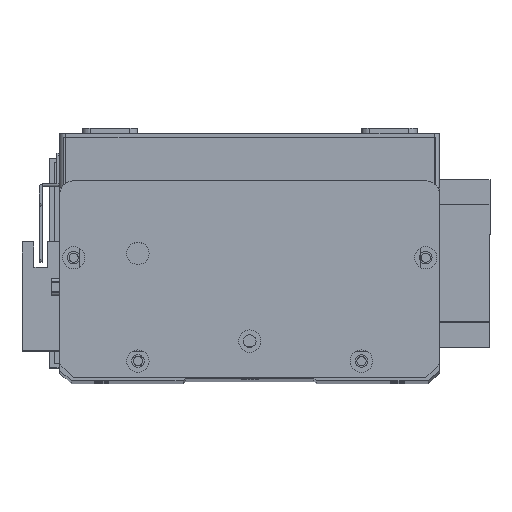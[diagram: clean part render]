
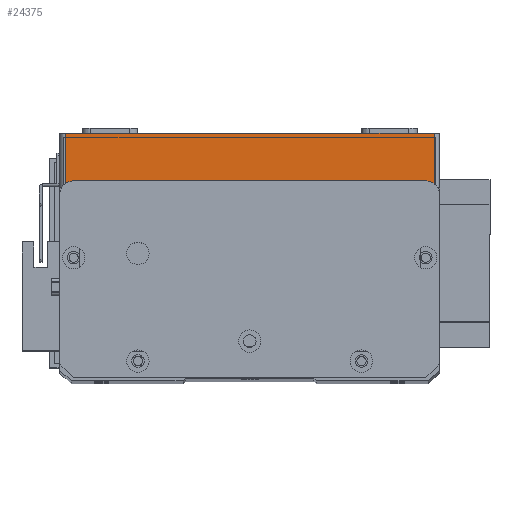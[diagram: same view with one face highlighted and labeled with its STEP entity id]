
A CAD part, top view. The second image highlights one B-rep face of the part: STEP entity #24375.
In plain terms, the highlighted planar face has unit normal (0, 0, 1) as drawn and (0, -1, 0) by its records, which use the part's own axes.
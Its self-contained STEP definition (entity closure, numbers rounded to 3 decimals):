
#221 = VERTEX_POINT ( 'NONE', #25934 ) ;
#480 = ORIENTED_EDGE ( 'NONE', *, *, #7185, .F. ) ;
#681 = DIRECTION ( 'NONE',  ( 0., 0., 1. ) ) ;
#1972 = AXIS2_PLACEMENT_3D ( 'NONE', #7260, #13977, #681 ) ;
#2326 = VECTOR ( 'NONE', #11329, 1000. ) ;
#4730 = ORIENTED_EDGE ( 'NONE', *, *, #14680, .T. ) ;
#5032 = PLANE ( 'NONE',  #1972 ) ;
#5339 = EDGE_LOOP ( 'NONE', ( #480, #13937, #4730, #26288 ) ) ;
#6563 = FACE_OUTER_BOUND ( 'NONE', #5339, .T. ) ;
#6926 = VECTOR ( 'NONE', #23841, 1000. ) ;
#7185 = EDGE_CURVE ( 'NONE', #7999, #13464, #16490, .T. ) ;
#7260 = CARTESIAN_POINT ( 'NONE',  ( 0., 0., 19.5 ) ) ;
#7999 = VERTEX_POINT ( 'NONE', #10614 ) ;
#8402 = EDGE_CURVE ( 'NONE', #221, #13464, #10862, .T. ) ;
#10614 = CARTESIAN_POINT ( 'NONE',  ( 2., 0., 19.5 ) ) ;
#10862 = LINE ( 'NONE', #23159, #28609 ) ;
#11329 = DIRECTION ( 'NONE',  ( 0., 0., -1. ) ) ;
#12034 = VERTEX_POINT ( 'NONE', #23089 ) ;
#13464 = VERTEX_POINT ( 'NONE', #18614 ) ;
#13937 = ORIENTED_EDGE ( 'NONE', *, *, #25487, .T. ) ;
#13977 = DIRECTION ( 'NONE',  ( 0., 1., 0. ) ) ;
#14146 = LINE ( 'NONE', #15591, #2326 ) ;
#14680 = EDGE_CURVE ( 'NONE', #12034, #221, #18784, .T. ) ;
#15591 = CARTESIAN_POINT ( 'NONE',  ( 2., 0., 19.5 ) ) ;
#15786 = VECTOR ( 'NONE', #21322, 1000. ) ;
#16490 = LINE ( 'NONE', #16902, #15786 ) ;
#16902 = CARTESIAN_POINT ( 'NONE',  ( 0., 0., 19.5 ) ) ;
#18614 = CARTESIAN_POINT ( 'NONE',  ( 134., 0., 19.5 ) ) ;
#18784 = LINE ( 'NONE', #19364, #6926 ) ;
#19364 = CARTESIAN_POINT ( 'NONE',  ( 0., 0., 0. ) ) ;
#21322 = DIRECTION ( 'NONE',  ( 1., 0., 0. ) ) ;
#23089 = CARTESIAN_POINT ( 'NONE',  ( 2., 0., 0. ) ) ;
#23159 = CARTESIAN_POINT ( 'NONE',  ( 134., 0., 19.5 ) ) ;
#23841 = DIRECTION ( 'NONE',  ( 1., 0., 0. ) ) ;
#24375 = ADVANCED_FACE ( 'NONE', ( #6563 ), #5032, .F. ) ;
#25281 = DIRECTION ( 'NONE',  ( 0., 0., 1. ) ) ;
#25487 = EDGE_CURVE ( 'NONE', #7999, #12034, #14146, .T. ) ;
#25934 = CARTESIAN_POINT ( 'NONE',  ( 134., 0., 0. ) ) ;
#26288 = ORIENTED_EDGE ( 'NONE', *, *, #8402, .T. ) ;
#28609 = VECTOR ( 'NONE', #25281, 1000. ) ;
